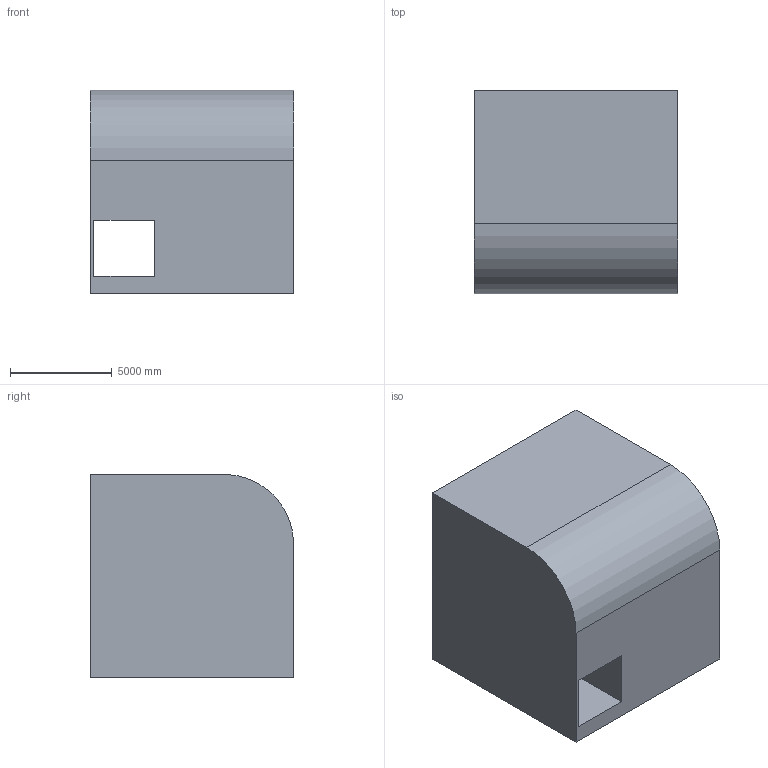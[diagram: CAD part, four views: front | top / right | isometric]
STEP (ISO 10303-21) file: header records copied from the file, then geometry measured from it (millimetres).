
FILE_DESCRIPTION (( 'STEP AP203' ), '1' );
FILE_NAME ('25.STEP', '2022-09-02T13:43:14', ( 'user' ), ( '' ), 'SwSTEP 2.0', 'SolidWorks 2021', '' );
FILE_SCHEMA (( 'CONFIG_CONTROL_DESIGN' ));
Length unit declared in the file: centimetre
Products named in the file (1): 25
Bounding box: 10000 x 10000 x 10000 mm (x, y, z)
Volume: 822278882769.6 mm3; surface area: 740088625.5 mm2
Topology: 1 solids, 1 shells, 14 faces, 39 edges, 26 vertices
Faces by surface type: plane 11, cylinder 3
Entity records: 536 total; most frequent: CARTESIAN_POINT 80, ORIENTED_EDGE 78, DIRECTION 77, EDGE_CURVE 39, LINE 31, VECTOR 31, VERTEX_POINT 26, AXIS2_PLACEMENT_3D 23
